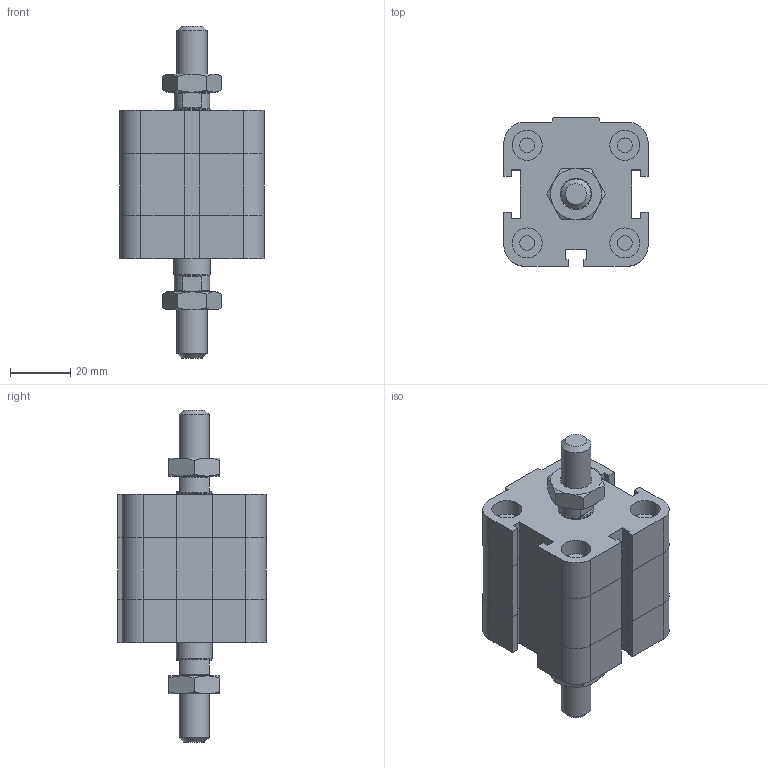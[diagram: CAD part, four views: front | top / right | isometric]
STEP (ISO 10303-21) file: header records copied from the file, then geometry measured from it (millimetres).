
FILE_DESCRIPTION((''),'2;1');
FILE_NAME('I:\Area Tecnica\Disegni\VARIE-3D\Componenti\EUROPE\15##_###_####_04_#\1561_32_0005_04_1.iam.stp','2009-04-20T14:44:50',(''),(''),'Autodesk Inventor 2009','Autodesk Inventor 2009','');
FILE_SCHEMA(('AUTOMOTIVE_DESIGN { 1 0 10303 214 1 1 1 1 }'));
Length unit declared in the file: millimetre
Products named in the file (4): 1561_32_0005_04_1; 1561_32_0005_03_1_C; 1561_32_0005_04_1_S; DBFM10
Assembly tree (4 placements, depth 2):
  1561_32_0005_04_1
    1561_32_0005_03_1_C
    1561_32_0005_04_1_S
    DBFM10  x2
Bounding box: 48 x 49.5 x 110.5 mm (x, y, z)
Volume: 104799.4 mm3; surface area: 26516.9 mm2
Topology: 4 solids, 4 shells, 222 faces, 483 edges, 289 vertices
Faces by surface type: plane 129, cone 35, bspline 33, cylinder 25
Full cylindrical faces by diameter (mm): 4.917 x4, 8.8 x1, 10 x5, 11.7 x2, 12 x1
Entity records: 5450 total; most frequent: CARTESIAN_POINT 1222, DIRECTION 802, ORIENTED_EDGE 772, EDGE_CURVE 386, AXIS2_PLACEMENT_3D 272, EDGE_LOOP 258, VECTOR 258, LINE 258
